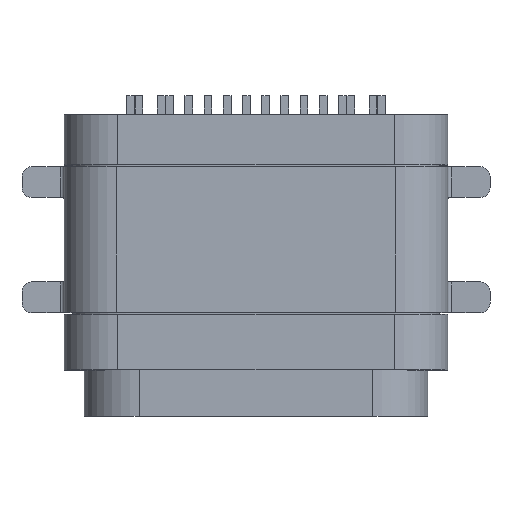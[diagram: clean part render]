
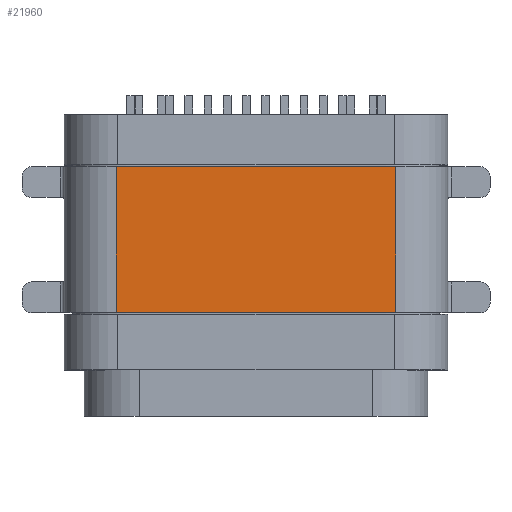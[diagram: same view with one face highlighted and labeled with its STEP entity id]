
A CAD part, top view. The second image highlights one B-rep face of the part: STEP entity #21960.
In plain terms, the highlighted planar face has unit normal (0, 0, 1).
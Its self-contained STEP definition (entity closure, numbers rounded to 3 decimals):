
#5227=DIRECTION('',(-1.,0.,0.));
#5228=VECTOR('',#5227,7.29);
#5229=CARTESIAN_POINT('',(3.645,6.5,4.81));
#5230=LINE('',#5229,#5228);
#5434=DIRECTION('',(0.,1.,0.));
#5435=VECTOR('',#5434,3.8);
#5436=CARTESIAN_POINT('',(3.645,2.7,4.81));
#5437=LINE('',#5436,#5435);
#5442=DIRECTION('',(-1.,0.,0.));
#5443=VECTOR('',#5442,7.29);
#5444=CARTESIAN_POINT('',(3.645,2.7,4.81));
#5445=LINE('',#5444,#5443);
#5450=DIRECTION('',(0.,-1.,0.));
#5451=VECTOR('',#5450,3.8);
#5452=CARTESIAN_POINT('',(-3.645,6.5,4.81));
#5453=LINE('',#5452,#5451);
#12922=CARTESIAN_POINT('',(3.645,6.5,4.81));
#12924=VERTEX_POINT('',#12922);
#12925=CARTESIAN_POINT('',(-3.645,6.5,
4.81));
#12926=VERTEX_POINT('',#12925);
#12934=CARTESIAN_POINT('',(-3.645,2.7,4.81));
#12936=VERTEX_POINT('',#12934);
#12937=CARTESIAN_POINT('',(3.645,2.7,4.81));
#12938=VERTEX_POINT('',#12937);
#21948=CARTESIAN_POINT('',(-3.645,2.7,4.81));
#21949=DIRECTION('',(0.,0.,1.));
#21950=DIRECTION('',(1.,0.,0.));
#21951=AXIS2_PLACEMENT_3D('',#21948,#21949,#21950);
#21952=PLANE('',#21951);
#21953=ORIENTED_EDGE('',*,*,#20822,.T.);
#21955=ORIENTED_EDGE('',*,*,#21954,.F.);
#21956=ORIENTED_EDGE('',*,*,#21534,.F.);
#21957=ORIENTED_EDGE('',*,*,#21941,.F.);
#21958=EDGE_LOOP('',(#21953,#21955,#21956,#21957));
#21959=FACE_OUTER_BOUND('',#21958,.F.);
#20822=EDGE_CURVE('',#12938,#12936,#5445,.T.);
#21534=EDGE_CURVE('',#12924,#12926,#5230,.T.);
#21941=EDGE_CURVE('',#12938,#12924,#5437,.T.);
#21954=EDGE_CURVE('',#12926,#12936,#5453,.T.);
#21960=ADVANCED_FACE('',(#21959),#21952,.T.);
